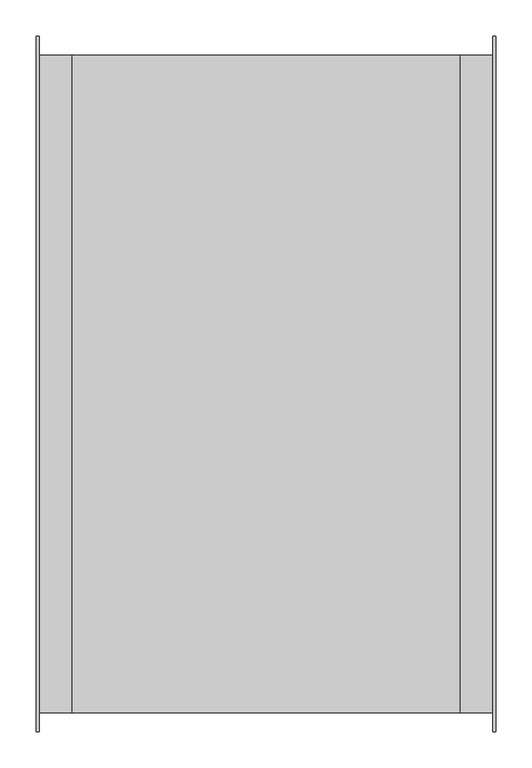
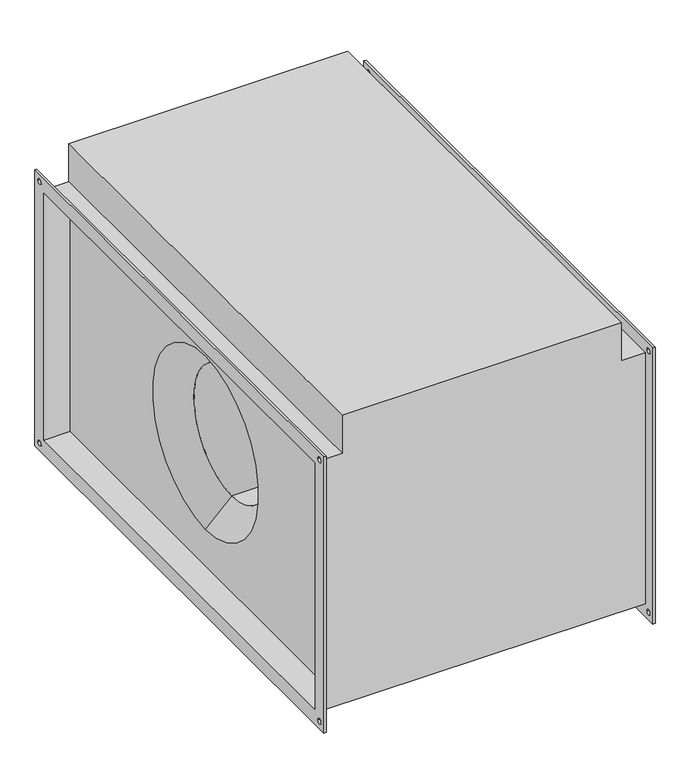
"""IFC4 building model written with IfcOpenShell, lengths in millimetres: proxy geometry, СВ_Вентилятор_КанальныйПрямоугольный_200-1000_SVPS : SVPS-900x500/35.2D."""

from ifc_helpers import new_model, si_unit, frame, origin, place, context, project, spatial, polyline, circle_curve, source, transform, mapped, element, save
from ifc_brep_helpers import plane_surface, revolved_surface, advanced_brep


def mechanical_equipment_e5cbe710(model_context):
    return source(origin(), model_context, "Body", "AdvancedBrep", [
        advanced_brep(
        [(-313.5, -454.0, 254.0), (-267.5, -454.0, 254.0), (-267.5, 454.0, 254.0), (-313.5, 454.0, 254.0), (267.5, 454.0, 331.0), (267.5, -454.0, 331.0), (267.5, -454.0, 254.0), (267.5, 454.0, 254.0), (267.5, 450.0, -250.0), (267.5, 450.0, 250.0), (267.5, -450.0, 250.0), (267.5, -450.0, -250.0), (267.5, 0.0, 175.0), (267.5, 0.0, -175.0), (-267.5, 450.0, 250.0), (-267.5, 450.0, -250.0), (-267.5, -450.0, -250.0), (-267.5, -450.0, 250.0), (-267.5, 0.0, -175.0), (-267.5, 0.0, 175.0), (-267.5, -454.0, 331.0), (-267.5, 454.0, 331.0), (-313.5, -454.0, -254.0), (313.5, -454.0, -254.0), (313.5, -454.0, 254.0), (-313.5, 454.0, -254.0), (313.5, 454.0, -254.0), (313.5, 454.0, 254.0), (217.5, 0.0, -125.0), (217.5, 0.0, 125.0), (-217.5, 0.0, 125.0), (-217.5, 0.0, -125.0), (-317.5, -480.0, 280.0), (-317.5, 480.0, 280.0), (-317.5, 480.0, -280.0), (-317.5, -480.0, -280.0), (-317.5, -450.0, 250.0), (-317.5, -450.0, -250.0), (-317.5, 450.0, -250.0), (-317.5, 450.0, 250.0), (-317.5, 460.0, 265.0), (-317.5, 470.0, 265.0), (-317.5, -470.0, 265.0), (-317.5, -460.0, 265.0), (-317.5, -470.0, -265.0), (-317.5, -460.0, -265.0), (-317.5, 460.0, -265.0), (-317.5, 470.0, -265.0), (-313.5, -480.0, 280.0), (-313.5, -480.0, -280.0), (-313.5, 480.0, -280.0), (-313.5, 480.0, 280.0), (-313.5, 470.0, 265.0), (-313.5, 460.0, 265.0), (-313.5, -460.0, 265.0), (-313.5, -470.0, 265.0), (-313.5, -460.0, -265.0), (-313.5, -470.0, -265.0), (-313.5, 470.0, -265.0), (-313.5, 460.0, -265.0), (313.5, 480.0, 280.0), (313.5, 480.0, -280.0), (313.5, -480.0, -280.0), (313.5, -480.0, 280.0), (313.5, 460.0, 265.0), (313.5, 470.0, 265.0), (313.5, -470.0, 265.0), (313.5, -460.0, 265.0), (313.5, -470.0, -265.0), (313.5, -460.0, -265.0), (313.5, 460.0, -265.0), (313.5, 470.0, -265.0), (317.5, 480.0, 280.0), (317.5, -480.0, 280.0), (317.5, -480.0, -280.0), (317.5, 480.0, -280.0), (317.5, 450.0, 250.0), (317.5, 450.0, -250.0), (317.5, -450.0, -250.0), (317.5, -450.0, 250.0), (317.5, 470.0, 265.0), (317.5, 460.0, 265.0), (317.5, -460.0, 265.0), (317.5, -470.0, 265.0), (317.5, -460.0, -265.0), (317.5, -470.0, -265.0), (317.5, 470.0, -265.0), (317.5, 460.0, -265.0)],
        [
            (0, 1),
            (1, 2),
            (2, 3),
            (3, 0),
            (4, 5),
            (5, 6),
            (6, 7),
            (7, 4),
            (8, 9),
            (9, 10),
            (10, 11),
            (11, 8),
            (12, 13, circle_curve(frame((267.5, 0.0, 0.0), z_axis=(-1.0, 0.0, 0.0), x_axis=(0.0, 0.0, 1.0)), 175.0)),
            (13, 12, circle_curve(frame((267.5, 0.0, 0.0), z_axis=(-1.0, 0.0, 0.0), x_axis=(0.0, 0.0, 1.0)), 175.0)),
            (14, 15),
            (15, 16),
            (16, 17),
            (17, 14),
            (18, 19, circle_curve(frame((-267.5, 0.0, 0.0), z_axis=(1.0, 0.0, 0.0), x_axis=(0.0, 0.0, 1.0)), 175.0)),
            (19, 18, circle_curve(frame((-267.5, 0.0, 0.0), z_axis=(1.0, 0.0, 0.0), x_axis=(0.0, 0.0, 1.0)), 175.0)),
            (20, 21),
            (21, 2),
            (1, 20),
            (5, 20),
            (0, 22),
            (22, 23),
            (23, 24),
            (24, 6),
            (22, 25),
            (25, 26),
            (26, 23),
            (21, 4),
            (7, 27),
            (27, 26),
            (25, 3),
            (24, 27),
            (28, 13),
            (12, 29),
            (29, 28, circle_curve(frame((217.5, 0.0, 0.0), z_axis=(-1.0, 0.0, 0.0), x_axis=(0.0, 0.0, 1.0)), 125.0)),
            (28, 29, circle_curve(frame((217.5, 0.0, 0.0), z_axis=(-1.0, 0.0, 0.0), x_axis=(0.0, 0.0, 1.0)), 125.0)),
            (29, 30),
            (30, 31, circle_curve(frame((-217.5, 0.0, 0.0), z_axis=(-1.0, 0.0, 0.0), x_axis=(0.0, 0.0, 1.0)), 125.0)),
            (31, 28),
            (31, 30, circle_curve(frame((-217.5, 0.0, 0.0), z_axis=(-1.0, 0.0, 0.0), x_axis=(0.0, 0.0, 1.0)), 125.0)),
            (30, 19),
            (18, 31),
            (32, 33),
            (33, 34),
            (34, 35),
            (35, 32),
            (36, 37),
            (37, 38),
            (38, 39),
            (39, 36),
            (40, 41, circle_curve(frame((-317.5, 465.0, 265.0), z_axis=(1.0, 0.0, 0.0), x_axis=(0.0, 1.0, 0.0)), 5.0)),
            (41, 40, circle_curve(frame((-317.5, 465.0, 265.0), z_axis=(1.0, 0.0, 0.0), x_axis=(0.0, 1.0, 0.0)), 5.0)),
            (42, 43, circle_curve(frame((-317.5, -465.0, 265.0), z_axis=(1.0, 0.0, 0.0), x_axis=(0.0, 1.0, 0.0)), 5.0)),
            (43, 42, circle_curve(frame((-317.5, -465.0, 265.0), z_axis=(1.0, 0.0, 0.0), x_axis=(0.0, 1.0, 0.0)), 5.0)),
            (44, 45, circle_curve(frame((-317.5, -465.0, -265.0), z_axis=(1.0, 0.0, 0.0), x_axis=(0.0, 1.0, 0.0)), 5.0)),
            (45, 44, circle_curve(frame((-317.5, -465.0, -265.0), z_axis=(1.0, 0.0, 0.0), x_axis=(0.0, 1.0, 0.0)), 5.0)),
            (46, 47, circle_curve(frame((-317.5, 465.0, -265.0), z_axis=(1.0, 0.0, 0.0), x_axis=(0.0, 1.0, 0.0)), 5.0)),
            (47, 46, circle_curve(frame((-317.5, 465.0, -265.0), z_axis=(1.0, 0.0, 0.0), x_axis=(0.0, 1.0, 0.0)), 5.0)),
            (48, 49),
            (49, 50),
            (50, 51),
            (51, 48),
            (52, 53, circle_curve(frame((-313.5, 465.0, 265.0), z_axis=(-1.0, 0.0, 0.0), x_axis=(0.0, 1.0, 0.0)), 5.0)),
            (53, 52, circle_curve(frame((-313.5, 465.0, 265.0), z_axis=(-1.0, 0.0, 0.0), x_axis=(0.0, 1.0, 0.0)), 5.0)),
            (54, 55, circle_curve(frame((-313.5, -465.0, 265.0), z_axis=(-1.0, 0.0, 0.0), x_axis=(0.0, 1.0, 0.0)), 5.0)),
            (55, 54, circle_curve(frame((-313.5, -465.0, 265.0), z_axis=(-1.0, 0.0, 0.0), x_axis=(0.0, 1.0, 0.0)), 5.0)),
            (56, 57, circle_curve(frame((-313.5, -465.0, -265.0), z_axis=(-1.0, 0.0, 0.0), x_axis=(0.0, 1.0, 0.0)), 5.0)),
            (57, 56, circle_curve(frame((-313.5, -465.0, -265.0), z_axis=(-1.0, 0.0, 0.0), x_axis=(0.0, 1.0, 0.0)), 5.0)),
            (58, 59, circle_curve(frame((-313.5, 465.0, -265.0), z_axis=(-1.0, 0.0, 0.0), x_axis=(0.0, 1.0, 0.0)), 5.0)),
            (59, 58, circle_curve(frame((-313.5, 465.0, -265.0), z_axis=(-1.0, 0.0, 0.0), x_axis=(0.0, 1.0, 0.0)), 5.0)),
            (35, 49),
            (48, 32),
            (34, 50),
            (33, 51),
            (60, 61),
            (61, 62),
            (62, 63),
            (63, 60),
            (64, 65, circle_curve(frame((313.5, 465.0, 265.0), z_axis=(1.0, 0.0, 0.0), x_axis=(0.0, 1.0, 0.0)), 5.0)),
            (65, 64, circle_curve(frame((313.5, 465.0, 265.0), z_axis=(1.0, 0.0, 0.0), x_axis=(0.0, 1.0, 0.0)), 5.0)),
            (66, 67, circle_curve(frame((313.5, -465.0, 265.0), z_axis=(1.0, 0.0, 0.0), x_axis=(0.0, 1.0, 0.0)), 5.0)),
            (67, 66, circle_curve(frame((313.5, -465.0, 265.0), z_axis=(1.0, 0.0, 0.0), x_axis=(0.0, 1.0, 0.0)), 5.0)),
            (68, 69, circle_curve(frame((313.5, -465.0, -265.0), z_axis=(1.0, 0.0, 0.0), x_axis=(0.0, 1.0, 0.0)), 5.0)),
            (69, 68, circle_curve(frame((313.5, -465.0, -265.0), z_axis=(1.0, 0.0, 0.0), x_axis=(0.0, 1.0, 0.0)), 5.0)),
            (70, 71, circle_curve(frame((313.5, 465.0, -265.0), z_axis=(1.0, 0.0, 0.0), x_axis=(0.0, 1.0, 0.0)), 5.0)),
            (71, 70, circle_curve(frame((313.5, 465.0, -265.0), z_axis=(1.0, 0.0, 0.0), x_axis=(0.0, 1.0, 0.0)), 5.0)),
            (72, 73),
            (73, 74),
            (74, 75),
            (75, 72),
            (76, 77),
            (77, 78),
            (78, 79),
            (79, 76),
            (80, 81, circle_curve(frame((317.5, 465.0, 265.0), z_axis=(-1.0, 0.0, 0.0), x_axis=(0.0, 1.0, 0.0)), 5.0)),
            (81, 80, circle_curve(frame((317.5, 465.0, 265.0), z_axis=(-1.0, 0.0, 0.0), x_axis=(0.0, 1.0, 0.0)), 5.0)),
            (82, 83, circle_curve(frame((317.5, -465.0, 265.0), z_axis=(-1.0, 0.0, 0.0), x_axis=(0.0, 1.0, 0.0)), 5.0)),
            (83, 82, circle_curve(frame((317.5, -465.0, 265.0), z_axis=(-1.0, 0.0, 0.0), x_axis=(0.0, 1.0, 0.0)), 5.0)),
            (84, 85, circle_curve(frame((317.5, -465.0, -265.0), z_axis=(-1.0, 0.0, 0.0), x_axis=(0.0, 1.0, 0.0)), 5.0)),
            (85, 84, circle_curve(frame((317.5, -465.0, -265.0), z_axis=(-1.0, 0.0, 0.0), x_axis=(0.0, 1.0, 0.0)), 5.0)),
            (86, 87, circle_curve(frame((317.5, 465.0, -265.0), z_axis=(-1.0, 0.0, 0.0), x_axis=(0.0, 1.0, 0.0)), 5.0)),
            (87, 86, circle_curve(frame((317.5, 465.0, -265.0), z_axis=(-1.0, 0.0, 0.0), x_axis=(0.0, 1.0, 0.0)), 5.0)),
            (63, 73),
            (72, 60),
            (62, 74),
            (61, 75),
            (39, 14),
            (17, 36),
            (38, 15),
            (37, 16),
            (76, 9),
            (8, 77),
            (11, 78),
            (10, 79),
            (40, 53),
            (52, 41),
            (64, 81),
            (80, 65),
            (42, 55),
            (54, 43),
            (66, 83),
            (82, 67),
            (44, 57),
            (56, 45),
            (68, 85),
            (84, 69),
            (46, 59),
            (58, 47),
            (70, 87),
            (86, 71),
        ],
        [
            plane_surface(frame((-267.5, 454.0, 254.0), z_axis=(0.0, 0.0, 1.0), x_axis=(-1.0, 0.0, 0.0))),
            plane_surface(frame((267.5, -454.0, 331.0), z_axis=(1.0, 0.0, 0.0), x_axis=(0.0, 0.0, -1.0))),
            plane_surface(frame((-267.5, -454.0, 331.0), z_axis=(-1.0, 0.0, 0.0), x_axis=(0.0, 0.0, 1.0))),
            plane_surface(frame((267.5, -454.0, 331.0), z_axis=(0.0, -1.0, 0.0), x_axis=(-1.0, 0.0, 0.0))),
            plane_surface(frame((267.5, -454.0, -254.0), z_axis=(0.0, 0.0, -1.0), x_axis=(-1.0, 0.0, 0.0))),
            plane_surface(frame((267.5, 454.0, -254.0), z_axis=(0.0, 1.0, 0.0), x_axis=(-1.0, 0.0, 0.0))),
            plane_surface(frame((267.5, 454.0, 331.0), z_axis=(0.0, 0.0, 1.0), x_axis=(-1.0, 0.0, 0.0))),
            plane_surface(frame((313.5, 454.0, 254.0), z_axis=(0.0, 0.0, 1.0), x_axis=(-1.0, 0.0, 0.0))),
            revolved_surface(polyline([(217.5, 0.0, 125.0), (267.5, 0.0, 175.0)]), (-704.5617897, 0.0, 0.0), (-1.0, 0.0, 0.0)),
            revolved_surface(polyline([(-217.5, 0.0, 125.0), (217.5, 0.0, 125.0)]), (-704.5617897, 0.0, 0.0), (-1.0, 0.0, 0.0)),
            revolved_surface(polyline([(-267.5, 0.0, 175.0), (-217.5, 0.0, 125.0)]), (-704.5617897, 0.0, 0.0), (-1.0, 0.0, 0.0)),
            plane_surface(frame((-317.5, -480.0, 280.0), z_axis=(-1.0, 0.0, 0.0), x_axis=(0.0, 0.0, 1.0))),
            plane_surface(frame((-313.5, -480.0, 280.0), z_axis=(1.0, 0.0, 0.0), x_axis=(0.0, 0.0, -1.0))),
            plane_surface(frame((-313.5, -480.0, 280.0), z_axis=(0.0, -1.0, 0.0), x_axis=(-1.0, 0.0, 0.0))),
            plane_surface(frame((-313.5, -480.0, -280.0), z_axis=(0.0, 0.0, -1.0), x_axis=(-1.0, 0.0, 0.0))),
            plane_surface(frame((-313.5, 480.0, -280.0), z_axis=(0.0, 1.0, 0.0), x_axis=(-1.0, 0.0, 0.0))),
            plane_surface(frame((-313.5, 480.0, 280.0), z_axis=(0.0, 0.0, 1.0), x_axis=(-1.0, 0.0, 0.0))),
            plane_surface(frame((313.5, 450.0, -250.0), z_axis=(-1.0, 0.0, 0.0), x_axis=(0.0, 0.0, 1.0))),
            plane_surface(frame((317.5, 450.0, -250.0), z_axis=(1.0, 0.0, 0.0), x_axis=(0.0, 0.0, -1.0))),
            plane_surface(frame((317.5, 480.0, 280.0), z_axis=(0.0, 0.0, 1.0), x_axis=(-1.0, 0.0, 0.0))),
            plane_surface(frame((317.5, -480.0, 280.0), z_axis=(0.0, -1.0, 0.0), x_axis=(-1.0, 0.0, 0.0))),
            plane_surface(frame((317.5, -480.0, -280.0), z_axis=(0.0, 0.0, -1.0), x_axis=(-1.0, 0.0, 0.0))),
            plane_surface(frame((317.5, 480.0, -280.0), z_axis=(0.0, 1.0, 0.0), x_axis=(-1.0, 0.0, 0.0))),
            plane_surface(frame((-313.5, -450.0, 250.0), z_axis=(0.0, 0.0, -1.0), x_axis=(-1.0, 0.0, 0.0))),
            plane_surface(frame((-313.5, 450.0, 250.0), z_axis=(0.0, -1.0, 0.0), x_axis=(-1.0, 0.0, 0.0))),
            plane_surface(frame((-313.5, 450.0, -250.0), z_axis=(0.0, 0.0, 1.0), x_axis=(-1.0, 0.0, 0.0))),
            plane_surface(frame((-313.5, -450.0, -250.0), z_axis=(0.0, 1.0, 0.0), x_axis=(-1.0, 0.0, 0.0))),
            plane_surface(frame((317.5, 450.0, 250.0), z_axis=(0.0, -1.0, 0.0), x_axis=(-1.0, 0.0, 0.0))),
            plane_surface(frame((317.5, 450.0, -250.0), z_axis=(0.0, 0.0, 1.0), x_axis=(-1.0, 0.0, 0.0))),
            plane_surface(frame((317.5, -450.0, -250.0), z_axis=(0.0, 1.0, 0.0), x_axis=(-1.0, 0.0, 0.0))),
            plane_surface(frame((317.5, -450.0, 250.0), z_axis=(0.0, 0.0, -1.0), x_axis=(-1.0, 0.0, 0.0))),
            revolved_surface(polyline([(-313.5, 470.0, 265.0), (-317.5, 470.0, 265.0)]), (-317.5, 465.0, 265.0), (1.0, 0.0, 0.0)),
            revolved_surface(polyline([(317.5, 470.0, 265.0), (313.5, 470.0, 265.0)]), (-317.5, 465.0, 265.0), (1.0, 0.0, 0.0)),
            revolved_surface(polyline([(-313.5, -460.0, 265.0), (-317.5, -460.0, 265.0)]), (0.0, -465.0, 265.0), (1.0, 0.0, 0.0)),
            revolved_surface(polyline([(317.5, -460.0, 265.0), (313.5, -460.0, 265.0)]), (0.0, -465.0, 265.0), (1.0, 0.0, 0.0)),
            revolved_surface(polyline([(-313.5, -460.0, -265.0), (-317.5, -460.0, -265.0)]), (0.0, -465.0, -265.0), (1.0, 0.0, 0.0)),
            revolved_surface(polyline([(317.5, -460.0, -265.0), (313.5, -460.0, -265.0)]), (0.0, -465.0, -265.0), (1.0, 0.0, 0.0)),
            revolved_surface(polyline([(-313.5, 470.0, -265.0), (-317.5, 470.0, -265.0)]), (0.0, 465.0, -265.0), (1.0, 0.0, 0.0)),
            revolved_surface(polyline([(317.5, 470.0, -265.0), (313.5, 470.0, -265.0)]), (0.0, 465.0, -265.0), (1.0, 0.0, 0.0)),
        ],
        [
            (0, [[1, 2, 3, 4]]),
            (1, [[5, 6, 7, 8]]),
            (1, [[9, 10, 11, 12], [13, 14]]),
            (2, [[15, 16, 17, 18], [19, 20]]),
            (2, [[21, 22, -2, 23]]),
            (3, [[24, -23, -1, 25, 26, 27, 28, -6]]),
            (4, [[-26, 29, 30, 31]]),
            (5, [[32, -8, 33, 34, -30, 35, -3, -22]]),
            (6, [[-5, -32, -21, -24]]),
            (7, [[-28, 36, -33, -7]]),
            (8, [[37, -13, 38, 39]]),
            (8, [[-37, 40, -38, -14]]),
            (9, [[-39, 41, 42, 43]]),
            (9, [[-40, -43, 44, -41]]),
            (10, [[-42, 45, -19, 46]]),
            (10, [[-44, -46, -20, -45]]),
            (11, [[47, 48, 49, 50], [51, 52, 53, 54], [55, 56], [57, 58], [59, 60], [61, 62]]),
            (12, [[63, 64, 65, 66], [-25, -4, -35, -29], [67, 68], [69, 70], [71, 72], [73, 74]]),
            (13, [[-50, 75, -63, 76]]),
            (14, [[-49, 77, -64, -75]]),
            (15, [[-48, 78, -65, -77]]),
            (16, [[-47, -76, -66, -78]]),
            (17, [[79, 80, 81, 82], [-27, -31, -34, -36], [83, 84], [85, 86], [87, 88], [89, 90]]),
            (18, [[91, 92, 93, 94], [95, 96, 97, 98], [99, 100], [101, 102], [103, 104], [105, 106]]),
            (19, [[-82, 107, -91, 108]]),
            (20, [[-81, 109, -92, -107]]),
            (21, [[-80, 110, -93, -109]]),
            (22, [[-79, -108, -94, -110]]),
            (23, [[-54, 111, -18, 112]]),
            (24, [[-53, 113, -15, -111]]),
            (25, [[-52, 114, -16, -113]]),
            (26, [[-51, -112, -17, -114]]),
            (27, [[-95, 115, -9, 116]]),
            (28, [[-96, -116, -12, 117]]),
            (29, [[-97, -117, -11, 118]]),
            (30, [[-115, -98, -118, -10]]),
            (31, [[119, -67, 120, -55]]),
            (32, [[121, -99, 122, -83]]),
            (31, [[-119, -56, -120, -68]]),
            (32, [[-121, -84, -122, -100]]),
            (33, [[123, -69, 124, -57]]),
            (34, [[125, -101, 126, -85]]),
            (33, [[-123, -58, -124, -70]]),
            (34, [[-125, -86, -126, -102]]),
            (35, [[127, -71, 128, -59]]),
            (36, [[129, -103, 130, -87]]),
            (35, [[-127, -60, -128, -72]]),
            (36, [[-129, -88, -130, -104]]),
            (37, [[131, -73, 132, -61]]),
            (38, [[133, -105, 134, -89]]),
            (37, [[-131, -62, -132, -74]]),
            (38, [[-133, -90, -134, -106]]),
        ],
    ),
    ])


if __name__ == "__main__":
    model = new_model("IFC4")
    model_context = context("Model", 3, world=origin())
    ifc_project = project(units=[si_unit("LENGTHUNIT", "METRE", prefix="MILLI")], contexts=[model_context])
    site = spatial("IfcSite", under=ifc_project)
    building = spatial("IfcBuilding", under=site)
    placement = place(None, origin())
    mechanical_equipment_shape = mechanical_equipment_e5cbe710(model_context)
    element("IfcBuildingElementProxy", 1, Name="СВ_Вентилятор_КанальныйПрямоугольный_200-1000_SVPS : SVPS-900x500/35.2D", ObjectType="СВ_Вентилятор_КанальныйПрямоугольный_200-1000_SVPS : SVPS-900x500/35.2D", at=placement, inside=building, context=model_context, shape_type="MappedRepresentation", body=[
        mapped(mechanical_equipment_shape, transform((0.0, 0.0, 0.0), x_axis=(1.0, 0.0, 0.0), y_axis=(0.0, 1.0, 0.0), z_axis=(0.0, 0.0, 1.0))),
    ])
    save(model, "model.ifc")
